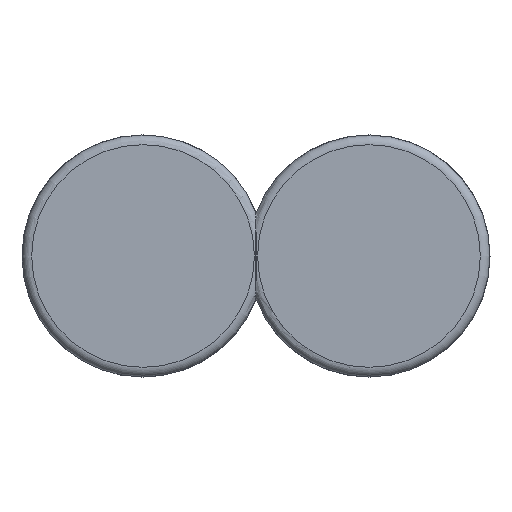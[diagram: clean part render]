
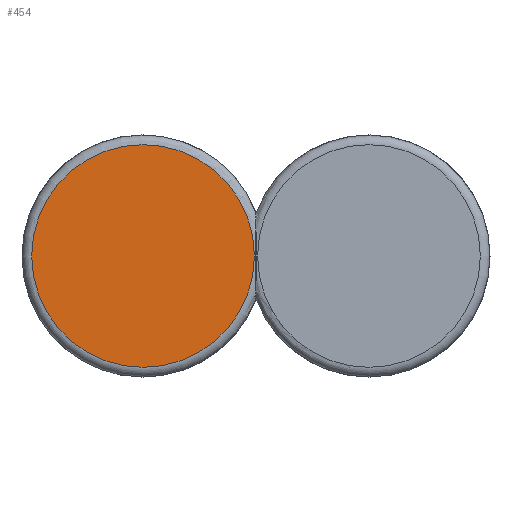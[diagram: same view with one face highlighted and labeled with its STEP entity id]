
A CAD part, left-side view. The second image highlights one B-rep face of the part: STEP entity #454.
In plain terms, the highlighted planar face has unit normal (-1, 0, 0).
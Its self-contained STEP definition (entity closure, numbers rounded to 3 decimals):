
#7 = FACE_OUTER_BOUND ( 'NONE', #206, .T. ) ;
#68 = DIRECTION ( 'NONE',  ( 0., 0., -1. ) ) ;
#87 = EDGE_CURVE ( 'NONE', #254, #254, #89, .T. ) ;
#89 = CIRCLE ( 'NONE', #557, 34.5 ) ;
#206 = EDGE_LOOP ( 'NONE', ( #627 ) ) ;
#254 = VERTEX_POINT ( 'NONE', #580 ) ;
#289 = DIRECTION ( 'NONE',  ( 1., 0., 0. ) ) ;
#312 = PLANE ( 'NONE',  #738 ) ;
#454 = ADVANCED_FACE ( 'NONE', ( #7 ), #312, .F. ) ;
#557 = AXIS2_PLACEMENT_3D ( 'NONE', #736, #680, #558 ) ;
#558 = DIRECTION ( 'NONE',  ( 0., 0., -1. ) ) ;
#580 = CARTESIAN_POINT ( 'NONE',  ( -232., 0., -34.5 ) ) ;
#627 = ORIENTED_EDGE ( 'NONE', *, *, #87, .T. ) ;
#652 = CARTESIAN_POINT ( 'NONE',  ( -232., 0., 0. ) ) ;
#680 = DIRECTION ( 'NONE',  ( -1., 0., 0. ) ) ;
#736 = CARTESIAN_POINT ( 'NONE',  ( -232., 0., 0. ) ) ;
#738 = AXIS2_PLACEMENT_3D ( 'NONE', #652, #289, #68 ) ;
